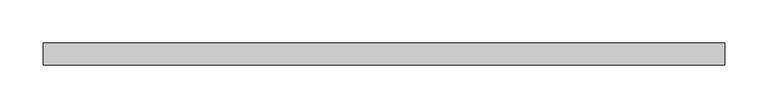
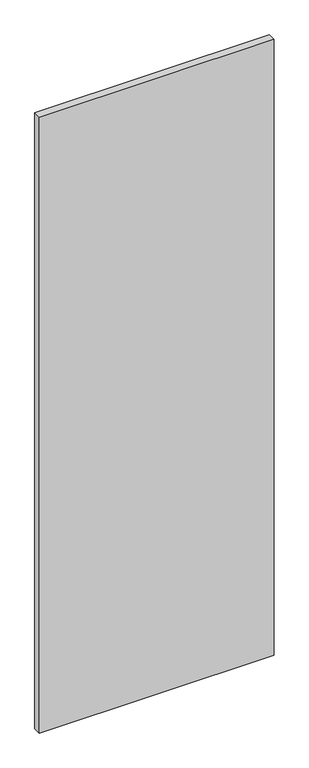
"""IFC4 building model written with IfcOpenShell, lengths in millimetres: plate geometry, 系统嵌板 : 玻璃."""

from ifc_helpers import new_model, si_unit, origin, origin_with_axes, place, context, project, spatial, polyline, outline, extrude, source, transform, mapped, element, save


def plate_b8854779(model_context):
    return source(origin(), model_context, "Body", "SweptSolid", [
        extrude(outline(polyline([(391.4697819, -12.5), (-391.4697819, -12.5), (-391.4697819, 12.5), (391.4697819, 12.5), (391.4697819, -12.5)])), origin_with_axes(), (0.0, 0.0, 1.0), 2170.0),
    ])


if __name__ == "__main__":
    model = new_model("IFC4")
    model_context = context("Model", 3, world=origin())
    ifc_project = project(units=[si_unit("LENGTHUNIT", "METRE", prefix="MILLI")], contexts=[model_context])
    site = spatial("IfcSite", under=ifc_project)
    building = spatial("IfcBuilding", under=site)
    placement = place(None, origin())
    plate_shape = plate_b8854779(model_context)
    element("IfcPlate", 1, ObjectType="系统嵌板 : 玻璃", at=placement, inside=building, context=model_context, shape_type="MappedRepresentation", body=[
        mapped(plate_shape, transform((0.0, 0.0, 0.0), x_axis=(1.0, 0.0, 0.0), y_axis=(0.0, 1.0, 0.0), z_axis=(0.0, 0.0, 1.0))),
    ])
    save(model, "model.ifc")
